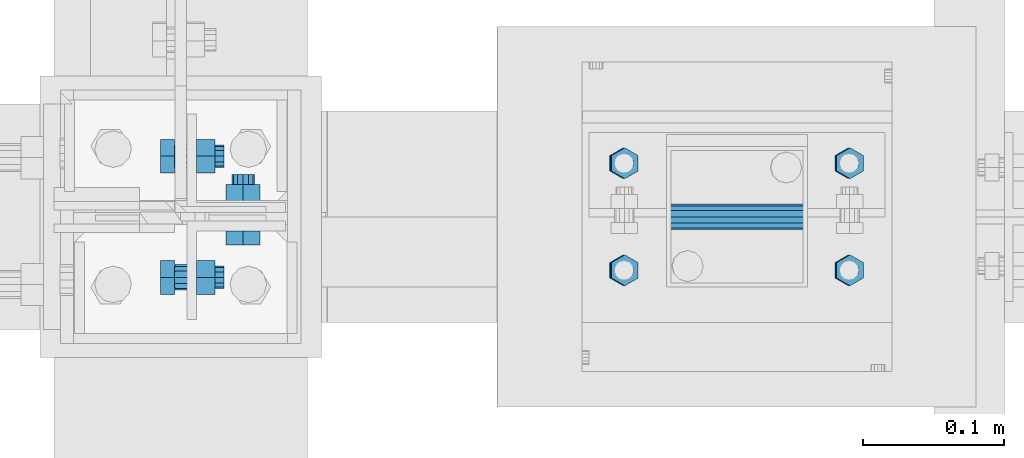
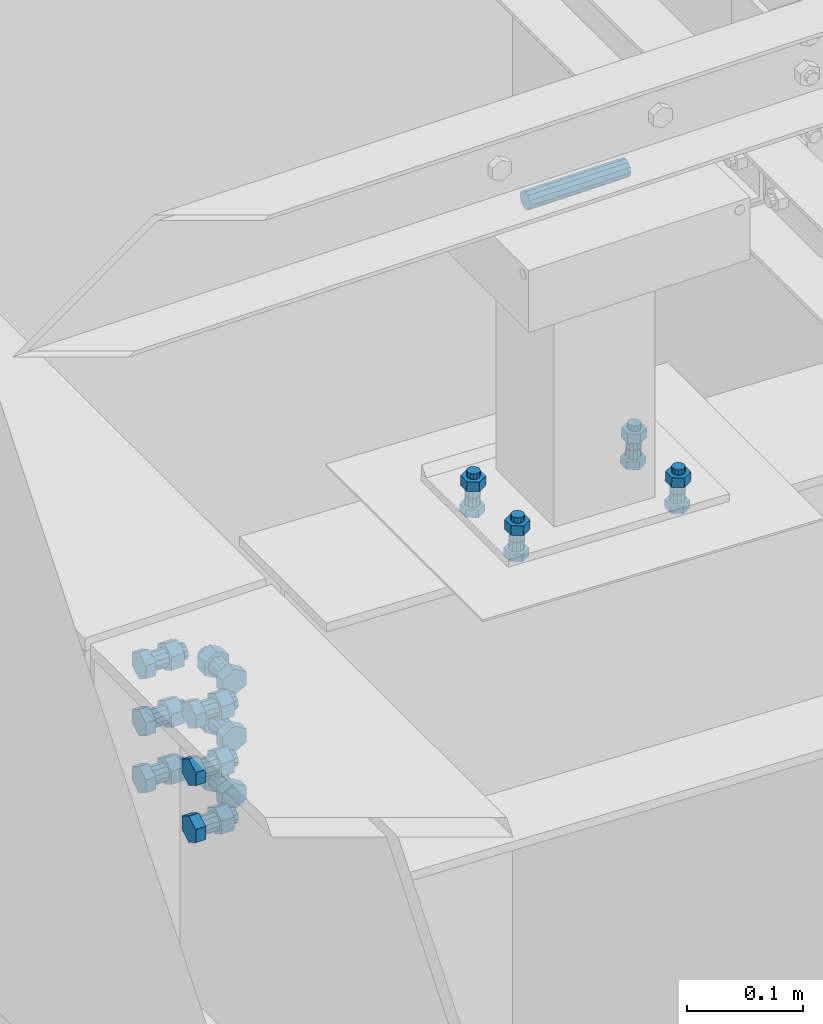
# One storey, part 182 of 3134: 5 mechanical fasteners, 3 elements without a shape of their own.
"""IFC2X3 building model written with IfcOpenShell, lengths in millimetres."""

from ifc_helpers import new_model, si_unit, frame, origin_with_axes, place, context, subcontext, project, spatial, faceted_brep, source, transform, mapped, material, type_object, element, aggregate, save


model = new_model("IFC2X3")

# Units and contexts
model_context = context("Model", 3, precision=1e-05, world=origin_with_axes())
body_context = subcontext(model_context, "Body", "Model", "MODEL_VIEW")
ifc_project = project(units=[si_unit("LENGTHUNIT", "METRE", prefix="MILLI"), si_unit("AREAUNIT", "SQUARE_METRE"), si_unit("VOLUMEUNIT", "CUBIC_METRE"), si_unit("MASSUNIT", "GRAM", prefix="KILO"), si_unit("TIMEUNIT", "SECOND"), si_unit("PLANEANGLEUNIT", "RADIAN"), si_unit("SOLIDANGLEUNIT", "STERADIAN"), si_unit("THERMODYNAMICTEMPERATUREUNIT", "DEGREE_CELSIUS"), si_unit("LUMINOUSINTENSITYUNIT", "LUMEN")], contexts=[model_context])

# Site, building, storey
site_placement = place(None, origin_with_axes())
site = spatial("IfcSite", under=ifc_project, at=site_placement, CompositionType="ELEMENT")
building_placement = place(site_placement, origin_with_axes())
building = spatial("IfcBuilding", under=site, at=building_placement, Name="Undefined", CompositionType="ELEMENT")
storey_placement = place(building_placement, origin_with_axes())
storey = spatial("IfcBuildingStorey", under=building, at=storey_placement, Name="Undefined", CompositionType="ELEMENT", Elevation=0.0)

# Assembly, mechanical fastener
assembly_1_placement = place(storey_placement, origin_with_axes())
assembly_1 = element("IfcElementAssembly", 1, at=assembly_1_placement, inside=storey, AssemblyPlace="NOTDEFINED", PredefinedType="RIGID_FRAME")
ifc_material = material(Name="8.8")
mechanical_fastener_type = type_object("IfcMechanicalFastenerType", Name="Bolt assembly")
shared_shape_1 = source(origin_with_axes(), body_context, "Body", "Brep", [
    faceted_brep([(13.856406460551, -18.5936482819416, 0.0), (6.92820323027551, -18.5936482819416, 12.0), (-6.92820323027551, -18.5936482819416, 12.0), (-13.856406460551, -18.5936482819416, 1.69692038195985e-15), (-6.92820323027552, -18.5936482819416, -12.0), (6.9282032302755, -18.5936482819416, -12.0), (6.9282032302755, -8.59364828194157, -12.0), (-6.92820323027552, -8.59364828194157, -12.0), (-13.856406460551, -8.59364828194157, 1.69692038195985e-15), (-6.92820323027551, -8.59364828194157, 12.0), (6.92820323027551, -8.59364828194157, 12.0), (13.856406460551, -8.59364828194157, 0.0), (8.0, -8.59364828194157, 0.0), (6.92820323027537, -8.59364828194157, 4.00000000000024), (3.99999999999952, -8.59364828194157, 6.92820323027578), (-8.29068785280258e-13, -8.59364828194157, 8.0), (-4.00000000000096, -8.59364828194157, 6.92820323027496), (-6.9282032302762, -8.59364828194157, 3.99999999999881), (-8.0, -8.59364828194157, -1.65813757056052e-12), (-6.92820323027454, -8.59364828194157, -4.00000000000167), (-3.99999999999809, -8.59364828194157, -6.92820323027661), (2.47832457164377e-12, -8.59364828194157, -8.0), (4.00000000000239, -8.59364828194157, -6.92820323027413), (6.92820323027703, -8.59364828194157, -3.99999999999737), (6.92820323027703, 26.4063517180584, -3.99999999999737), (4.00000000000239, 26.4063517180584, -6.92820323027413), (2.47832457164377e-12, 26.4063517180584, -8.0), (-3.99999999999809, 26.4063517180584, -6.92820323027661), (-6.92820323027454, 26.4063517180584, -4.00000000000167), (-8.0, 26.4063517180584, -1.65813757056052e-12), (-6.9282032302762, 26.4063517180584, 3.99999999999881), (-4.00000000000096, 26.4063517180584, 6.92820323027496), (-8.29068785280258e-13, 26.4063517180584, 8.0), (3.99999999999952, 26.4063517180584, 6.92820323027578), (6.92820323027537, 26.4063517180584, 4.00000000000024), (8.0, 26.4063517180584, 0.0), (13.856406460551, 7.0, 0.0), (6.92820323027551, 7.0, 12.0), (-6.92820323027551, 7.0, 12.0), (-13.856406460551, 7.0, 1.69692038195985e-15), (-6.92820323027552, 7.0, -12.0), (6.9282032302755, 7.0, -12.0), (6.9282032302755, 20.0, -12.0), (-6.92820323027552, 20.0, -12.0), (-13.856406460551, 20.0, 1.69692038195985e-15), (-6.92820323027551, 20.0, 12.0), (6.92820323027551, 20.0, 12.0), (13.856406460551, 20.0, 0.0)], [[[0, 1, 2, 3, 4, 5]], [[6, 7, 8, 9, 10, 11]], [[0, 11, 10, 1]], [[1, 10, 9, 2]], [[2, 9, 8, 3]], [[3, 8, 7, 4]], [[4, 7, 6, 5]], [[5, 6, 11, 0]], [[12, 13, 14, 15, 16, 17, 18, 19, 20, 21, 22, 23]], [[24, 25, 26, 27, 28, 29, 30, 31, 32, 33, 34, 35]], [[12, 35, 34, 13]], [[13, 34, 33, 14]], [[14, 33, 32, 15]], [[15, 32, 31, 16]], [[16, 31, 30, 17]], [[17, 30, 29, 18]], [[18, 29, 28, 19]], [[19, 28, 27, 20]], [[20, 27, 26, 21]], [[21, 26, 25, 22]], [[22, 25, 24, 23]], [[23, 24, 35, 12]], [[36, 37, 38, 39, 40, 41]], [[42, 43, 44, 45, 46, 47]], [[36, 47, 46, 37]], [[37, 46, 45, 38]], [[38, 45, 44, 39]], [[39, 44, 43, 40]], [[40, 43, 42, 41]], [[41, 42, 47, 36]]]),
    faceted_brep([(9.0, -8.49364828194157, 0.0), (7.79422863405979, -8.49364828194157, 4.50000000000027), (4.49999999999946, -8.49364828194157, 7.79422863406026), (-9.3270238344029e-13, -8.49364828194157, 9.0), (-4.50000000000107, -8.49364828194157, 7.79422863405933), (-7.79422863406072, -8.49364828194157, 4.49999999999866), (-9.0, -8.49364828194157, -1.86540476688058e-12), (-7.79422863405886, -8.49364828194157, -4.50000000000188), (-4.49999999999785, -8.49364828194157, -7.79422863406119), (2.78811514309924e-12, -8.49364828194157, -9.0), (4.50000000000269, -8.49364828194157, -7.7942286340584), (7.79422863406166, -8.49364828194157, -4.49999999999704), (7.79422863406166, 0.10635209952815, -4.49999999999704), (4.50000000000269, 0.10635209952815, -7.7942286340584), (2.78811514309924e-12, 0.10635209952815, -9.0), (-4.49999999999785, 0.10635209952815, -7.79422863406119), (-7.79422863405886, 0.10635209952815, -4.50000000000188), (-9.0, 0.10635209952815, -1.86540476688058e-12), (-7.79422863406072, 0.10635209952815, 4.49999999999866), (-4.50000000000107, 0.10635209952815, 7.79422863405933), (-9.3270238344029e-13, 0.10635209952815, 9.0), (4.49999999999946, 0.10635209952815, 7.79422863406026), (7.79422863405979, 0.10635209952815, 4.50000000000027), (9.0, 0.10635209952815, 0.0), (9.0, -0.1, 0.0), (7.79422863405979, -0.1, 4.50000000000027), (4.49999999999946, -0.1, 7.79422863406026), (-9.3270238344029e-13, -0.1, 9.0), (-4.50000000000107, -0.1, 7.79422863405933), (-7.79422863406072, -0.1, 4.49999999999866), (-9.0, -0.1, -1.86540476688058e-12), (-7.79422863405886, -0.1, -4.50000000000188), (-4.49999999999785, -0.1, -7.79422863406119), (2.78811514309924e-12, -0.1, -9.0), (4.50000000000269, -0.1, -7.7942286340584), (7.79422863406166, -0.1, -4.49999999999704), (7.79422863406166, 7.0, -4.49999999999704), (4.50000000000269, 7.0, -7.7942286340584), (2.78811514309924e-12, 7.0, -9.0), (-4.49999999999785, 7.0, -7.79422863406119), (-7.79422863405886, 7.0, -4.50000000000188), (-9.0, 7.0, -1.86540476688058e-12), (-7.79422863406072, 7.0, 4.49999999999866), (-4.50000000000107, 7.0, 7.79422863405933), (-9.3270238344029e-13, 7.0, 9.0), (4.49999999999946, 7.0, 7.79422863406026), (7.79422863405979, 7.0, 4.50000000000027), (9.0, 7.0, 0.0)], [[[0, 1, 2, 3, 4, 5, 6, 7, 8, 9, 10, 11]], [[12, 13, 14, 15, 16, 17, 18, 19, 20, 21, 22, 23]], [[0, 23, 22, 1]], [[1, 22, 21, 2]], [[2, 21, 20, 3]], [[3, 20, 19, 4]], [[4, 19, 18, 5]], [[5, 18, 17, 6]], [[6, 17, 16, 7]], [[7, 16, 15, 8]], [[8, 15, 14, 9]], [[9, 14, 13, 10]], [[10, 13, 12, 11]], [[11, 12, 23, 0]], [[24, 25, 26, 27, 28, 29, 30, 31, 32, 33, 34, 35]], [[36, 37, 38, 39, 40, 41, 42, 43, 44, 45, 46, 47]], [[24, 47, 46, 25]], [[25, 46, 45, 26]], [[26, 45, 44, 27]], [[27, 44, 43, 28]], [[28, 43, 42, 29]], [[29, 42, 41, 30]], [[30, 41, 40, 31]], [[31, 40, 39, 32]], [[32, 39, 38, 33]], [[33, 38, 37, 34]], [[34, 37, 36, 35]], [[35, 36, 47, 24]]]),
])
mechanical_fastener_1_placement = place(assembly_1_placement, frame((4.29364809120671, 40293.04, 3841.86727512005), z_axis=(0.0, 1.0, 0.0), x_axis=(0.0, 0.0, 1.0)))
mechanical_fastener_1 = element("IfcMechanicalFastener", 2, at=mechanical_fastener_1_placement, type_object=mechanical_fastener_type, material=ifc_material, Name="Bolt assembly", NominalDiameter=16.0, NominalLength=35.0, context=body_context, shape_type="MappedRepresentation", body=[
    mapped(shared_shape_1, transform((0.0, 0.0, 0.0))),
    mapped(shared_shape_1, transform((59.9999999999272, 0.0, 5.40239852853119e-10))),
    mapped(shared_shape_1, transform((120.0, 0.0, 0.0))),
])
aggregate(assembly_1, [mechanical_fastener_1])

# Assembly, mechanical fasteners
assembly_2_placement = place(storey_placement, origin_with_axes())
assembly_2 = element("IfcElementAssembly", 3, at=assembly_2_placement, inside=storey, AssemblyPlace="NOTDEFINED", PredefinedType="RIGID_FRAME")
mechanical_fastener_2_placement = place(assembly_2_placement, frame((4.29364809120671, 40206.96, 3841.86727512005), z_axis=(0.0, 1.0, 0.0), x_axis=(0.0, 0.0, 1.0)))
mechanical_fastener_2 = element("IfcMechanicalFastener", 4, at=mechanical_fastener_2_placement, type_object=mechanical_fastener_type, material=ifc_material, Name="Bolt assembly", NominalDiameter=16.0, NominalLength=35.0, context=body_context, shape_type="MappedRepresentation", body=[
    mapped(shared_shape_1, transform((0.0, 0.0, 0.0))),
    mapped(shared_shape_1, transform((59.9999999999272, 0.0, 5.40239852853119e-10))),
    mapped(shared_shape_1, transform((120.0, 0.0, 0.0))),
])
shared_shape_2 = source(origin_with_axes(), body_context, "Body", "Brep", [
    faceted_brep([(13.856406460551, -20.0400000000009, 0.0), (6.92820323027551, -20.0400000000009, 12.0), (-6.92820323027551, -20.0400000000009, 12.0), (-13.856406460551, -20.0400000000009, 1.69692038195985e-15), (-6.92820323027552, -20.0400000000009, -12.0), (6.9282032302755, -20.0400000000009, -12.0), (6.9282032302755, -10.0400000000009, -12.0), (-6.92820323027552, -10.0400000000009, -12.0), (-13.856406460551, -10.0400000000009, 1.69692038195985e-15), (-6.92820323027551, -10.0400000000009, 12.0), (6.92820323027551, -10.0400000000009, 12.0), (13.856406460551, -10.0400000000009, 0.0), (8.0, -10.0400000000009, 0.0), (6.92820323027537, -10.0400000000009, 4.00000000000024), (3.99999999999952, -10.0400000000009, 6.92820323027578), (-8.29068785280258e-13, -10.0400000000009, 8.0), (-4.00000000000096, -10.0400000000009, 6.92820323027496), (-6.9282032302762, -10.0400000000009, 3.99999999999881), (-8.0, -10.0400000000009, -1.65813757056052e-12), (-6.92820323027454, -10.0400000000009, -4.00000000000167), (-3.99999999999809, -10.0400000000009, -6.92820323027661), (2.47832457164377e-12, -10.0400000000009, -8.0), (4.00000000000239, -10.0400000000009, -6.92820323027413), (6.92820323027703, -10.0400000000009, -3.99999999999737), (6.92820323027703, 29.9599999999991, -3.99999999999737), (4.00000000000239, 29.9599999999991, -6.92820323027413), (2.47832457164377e-12, 29.9599999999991, -8.0), (-3.99999999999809, 29.9599999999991, -6.92820323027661), (-6.92820323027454, 29.9599999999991, -4.00000000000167), (-8.0, 29.9599999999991, -1.65813757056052e-12), (-6.9282032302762, 29.9599999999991, 3.99999999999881), (-4.00000000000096, 29.9599999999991, 6.92820323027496), (-8.29068785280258e-13, 29.9599999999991, 8.0), (3.99999999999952, 29.9599999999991, 6.92820323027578), (6.92820323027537, 29.9599999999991, 4.00000000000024), (8.0, 29.9599999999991, 0.0), (13.856406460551, 10.0400000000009, 0.0), (6.92820323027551, 10.0400000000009, 12.0), (-6.92820323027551, 10.0400000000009, 12.0), (-13.856406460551, 10.0400000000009, 1.69692038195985e-15), (-6.92820323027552, 10.0400000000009, -12.0), (6.9282032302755, 10.0400000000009, -12.0), (6.9282032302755, 23.0400000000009, -12.0), (-6.92820323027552, 23.0400000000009, -12.0), (-13.856406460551, 23.0400000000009, 1.69692038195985e-15), (-6.92820323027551, 23.0400000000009, 12.0), (6.92820323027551, 23.0400000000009, 12.0), (13.856406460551, 23.0400000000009, 0.0)], [[[0, 1, 2, 3, 4, 5]], [[6, 7, 8, 9, 10, 11]], [[0, 11, 10, 1]], [[1, 10, 9, 2]], [[2, 9, 8, 3]], [[3, 8, 7, 4]], [[4, 7, 6, 5]], [[5, 6, 11, 0]], [[12, 13, 14, 15, 16, 17, 18, 19, 20, 21, 22, 23]], [[24, 25, 26, 27, 28, 29, 30, 31, 32, 33, 34, 35]], [[12, 35, 34, 13]], [[13, 34, 33, 14]], [[14, 33, 32, 15]], [[15, 32, 31, 16]], [[16, 31, 30, 17]], [[17, 30, 29, 18]], [[18, 29, 28, 19]], [[19, 28, 27, 20]], [[20, 27, 26, 21]], [[21, 26, 25, 22]], [[22, 25, 24, 23]], [[23, 24, 35, 12]], [[36, 37, 38, 39, 40, 41]], [[42, 43, 44, 45, 46, 47]], [[36, 47, 46, 37]], [[37, 46, 45, 38]], [[38, 45, 44, 39]], [[39, 44, 43, 40]], [[40, 43, 42, 41]], [[41, 42, 47, 36]]]),
    faceted_brep([(9.0, -3.04999995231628, 0.0), (7.79422863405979, -3.04999995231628, 4.50000000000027), (4.49999999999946, -3.04999995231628, 7.79422863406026), (-9.3270238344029e-13, -3.04999995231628, 9.0), (-4.50000000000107, -3.04999995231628, 7.79422863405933), (-7.79422863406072, -3.04999995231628, 4.49999999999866), (-9.0, -3.04999995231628, -1.86540476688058e-12), (-7.79422863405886, -3.04999995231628, -4.50000000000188), (-4.49999999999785, -3.04999995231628, -7.79422863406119), (2.78811514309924e-12, -3.04999995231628, -9.0), (4.50000000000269, -3.04999995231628, -7.7942286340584), (7.79422863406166, -3.04999995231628, -4.49999999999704), (7.79422863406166, 3.04999995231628, -4.49999999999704), (4.50000000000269, 3.04999995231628, -7.7942286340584), (2.78811514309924e-12, 3.04999995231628, -9.0), (-4.49999999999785, 3.04999995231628, -7.79422863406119), (-7.79422863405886, 3.04999995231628, -4.50000000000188), (-9.0, 3.04999995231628, -1.86540476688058e-12), (-7.79422863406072, 3.04999995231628, 4.49999999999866), (-4.50000000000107, 3.04999995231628, 7.79422863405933), (-9.3270238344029e-13, 3.04999995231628, 9.0), (4.49999999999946, 3.04999995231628, 7.79422863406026), (7.79422863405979, 3.04999995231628, 4.50000000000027), (9.0, 3.04999995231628, 0.0), (9.0, -9.94000000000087, 0.0), (7.79422863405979, -9.94000000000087, 4.50000000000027), (4.49999999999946, -9.94000000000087, 7.79422863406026), (-9.3270238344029e-13, -9.94000000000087, 9.0), (-4.50000000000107, -9.94000000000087, 7.79422863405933), (-7.79422863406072, -9.94000000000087, 4.49999999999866), (-9.0, -9.94000000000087, -1.86540476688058e-12), (-7.79422863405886, -9.94000000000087, -4.50000000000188), (-4.49999999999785, -9.94000000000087, -7.79422863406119), (2.78811514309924e-12, -9.94000000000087, -9.0), (4.50000000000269, -9.94000000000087, -7.7942286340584), (7.79422863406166, -9.94000000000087, -4.49999999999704), (7.79422863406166, -2.94000000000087, -4.49999999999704), (4.50000000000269, -2.94000000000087, -7.7942286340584), (2.78811514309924e-12, -2.94000000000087, -9.0), (-4.49999999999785, -2.94000000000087, -7.79422863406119), (-7.79422863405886, -2.94000000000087, -4.50000000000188), (-9.0, -2.94000000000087, -1.86540476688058e-12), (-7.79422863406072, -2.94000000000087, 4.49999999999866), (-4.50000000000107, -2.94000000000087, 7.79422863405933), (-9.3270238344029e-13, -2.94000000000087, 9.0), (4.49999999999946, -2.94000000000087, 7.79422863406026), (7.79422863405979, -2.94000000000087, 4.50000000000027), (9.0, -2.94000000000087, 0.0), (9.0, 2.94000000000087, 0.0), (7.79422863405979, 2.94000000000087, 4.50000000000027), (4.49999999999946, 2.94000000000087, 7.79422863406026), (-9.3270238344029e-13, 2.94000000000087, 9.0), (-4.50000000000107, 2.94000000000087, 7.79422863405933), (-7.79422863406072, 2.94000000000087, 4.49999999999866), (-9.0, 2.94000000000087, -1.86540476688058e-12), (-7.79422863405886, 2.94000000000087, -4.50000000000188), (-4.49999999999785, 2.94000000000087, -7.79422863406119), (2.78811514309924e-12, 2.94000000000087, -9.0), (4.50000000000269, 2.94000000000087, -7.7942286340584), (7.79422863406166, 2.94000000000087, -4.49999999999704), (7.79422863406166, 10.0400000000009, -4.49999999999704), (4.50000000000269, 10.0400000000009, -7.7942286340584), (2.78811514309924e-12, 10.0400000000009, -9.0), (-4.49999999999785, 10.0400000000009, -7.79422863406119), (-7.79422863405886, 10.0400000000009, -4.50000000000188), (-9.0, 10.0400000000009, -1.86540476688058e-12), (-7.79422863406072, 10.0400000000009, 4.49999999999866), (-4.50000000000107, 10.0400000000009, 7.79422863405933), (-9.3270238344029e-13, 10.0400000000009, 9.0), (4.49999999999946, 10.0400000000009, 7.79422863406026), (7.79422863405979, 10.0400000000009, 4.50000000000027), (9.0, 10.0400000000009, 0.0)], [[[0, 1, 2, 3, 4, 5, 6, 7, 8, 9, 10, 11]], [[12, 13, 14, 15, 16, 17, 18, 19, 20, 21, 22, 23]], [[0, 23, 22, 1]], [[1, 22, 21, 2]], [[2, 21, 20, 3]], [[3, 20, 19, 4]], [[4, 19, 18, 5]], [[5, 18, 17, 6]], [[6, 17, 16, 7]], [[7, 16, 15, 8]], [[8, 15, 14, 9]], [[9, 14, 13, 10]], [[10, 13, 12, 11]], [[11, 12, 23, 0]], [[24, 25, 26, 27, 28, 29, 30, 31, 32, 33, 34, 35]], [[36, 37, 38, 39, 40, 41, 42, 43, 44, 45, 46, 47]], [[24, 47, 46, 25]], [[25, 46, 45, 26]], [[26, 45, 44, 27]], [[27, 44, 43, 28]], [[28, 43, 42, 29]], [[29, 42, 41, 30]], [[30, 41, 40, 31]], [[31, 40, 39, 32]], [[32, 39, 38, 33]], [[33, 38, 37, 34]], [[34, 37, 36, 35]], [[35, 36, 47, 24]], [[48, 49, 50, 51, 52, 53, 54, 55, 56, 57, 58, 59]], [[60, 61, 62, 63, 64, 65, 66, 67, 68, 69, 70, 71]], [[48, 71, 70, 49]], [[49, 70, 69, 50]], [[50, 69, 68, 51]], [[51, 68, 67, 52]], [[52, 67, 66, 53]], [[53, 66, 65, 54]], [[54, 65, 64, 55]], [[55, 64, 63, 56]], [[56, 63, 62, 57]], [[57, 62, 61, 58]], [[58, 61, 60, 59]], [[59, 60, 71, 48]]]),
])
mechanical_fastener_3_placement = place(assembly_2_placement, frame((44.2936480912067, 40250.0, 3841.86727512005), z_axis=(-1.0, 0.0, 0.0), x_axis=(0.0, 0.0, 1.0)))
mechanical_fastener_3 = element("IfcMechanicalFastener", 5, at=mechanical_fastener_3_placement, type_object=mechanical_fastener_type, material=ifc_material, Name="Bolt assembly", NominalDiameter=16.0, NominalLength=40.0, context=body_context, shape_type="MappedRepresentation", body=[
    mapped(shared_shape_2, transform((0.0, 0.0, 0.0))),
    mapped(shared_shape_2, transform((59.9999999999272, 0.0, 5.40239852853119e-10))),
    mapped(shared_shape_2, transform((120.0, 0.0, 0.0))),
])
aggregate(assembly_2, [mechanical_fastener_2, mechanical_fastener_3])

assembly_3_placement = place(storey_placement, origin_with_axes())
assembly_3 = element("IfcElementAssembly", 6, at=assembly_3_placement, inside=storey, AssemblyPlace="NOTDEFINED", PredefinedType="RIGID_FRAME")
shared_shape_3 = source(origin_with_axes(), body_context, "Body", "Brep", [
    faceted_brep([(10.9696551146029, -4.19432770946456, 0.0), (5.48482755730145, -4.19432770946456, 9.5), (-5.48482755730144, -4.19432770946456, 9.5), (-10.9696551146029, -4.19432770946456, 1.34339530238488e-15), (-5.48482755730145, -4.19432770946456, -9.5), (5.48482755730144, -4.19432770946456, -9.50000000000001), (5.48482755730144, 3.80567229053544, -9.50000000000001), (-5.48482755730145, 3.80567229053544, -9.5), (-10.9696551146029, 3.80567229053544, 1.34339530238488e-15), (-5.48482755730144, 3.80567229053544, 9.5), (5.48482755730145, 3.80567229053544, 9.5), (10.9696551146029, 3.80567229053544, 0.0), (6.0, 3.80567229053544, 0.0), (5.19615242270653, 3.80567229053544, 3.00000000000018), (2.99999999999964, 3.80567229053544, 5.19615242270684), (-6.21801588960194e-13, 3.80567229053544, 6.0), (-3.00000000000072, 3.80567229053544, 5.19615242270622), (-5.19615242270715, 3.80567229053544, 2.9999999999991), (-6.0, 3.80567229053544, -1.24360317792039e-12), (-5.19615242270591, 3.80567229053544, -3.00000000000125), (-2.99999999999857, 3.80567229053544, -5.19615242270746), (1.85874342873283e-12, 3.80567229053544, -6.0), (3.00000000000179, 3.80567229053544, -5.1961524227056), (5.19615242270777, 3.80567229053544, -2.99999999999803), (5.19615242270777, 38.8056722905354, -2.99999999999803), (3.00000000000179, 38.8056722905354, -5.1961524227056), (1.85874342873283e-12, 38.8056722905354, -6.0), (-2.99999999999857, 38.8056722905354, -5.19615242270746), (-5.19615242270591, 38.8056722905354, -3.00000000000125), (-6.0, 38.8056722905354, -1.24360317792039e-12), (-5.19615242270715, 38.8056722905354, 2.9999999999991), (-3.00000000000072, 38.8056722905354, 5.19615242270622), (-6.21801588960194e-13, 38.8056722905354, 6.0), (2.99999999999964, 38.8056722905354, 5.19615242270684), (5.19615242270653, 38.8056722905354, 3.00000000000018), (6.0, 38.8056722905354, 0.0), (10.9696551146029, 23.0139082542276, 0.0), (5.48482755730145, 23.0139082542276, 9.5), (-5.48482755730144, 23.0139082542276, 9.5), (-10.9696551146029, 23.0139082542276, 1.34339530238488e-15), (-5.48482755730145, 23.0139082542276, -9.5), (5.48482755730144, 23.0139082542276, -9.50000000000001), (5.48482755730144, 33.0139082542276, -9.50000000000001), (-5.48482755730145, 33.0139082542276, -9.5), (-10.9696551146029, 33.0139082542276, 1.34339530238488e-15), (-5.48482755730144, 33.0139082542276, 9.5), (5.48482755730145, 33.0139082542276, 9.5), (10.9696551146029, 33.0139082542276, 0.0)], [[[0, 1, 2, 3, 4, 5]], [[6, 7, 8, 9, 10, 11]], [[0, 11, 10, 1]], [[1, 10, 9, 2]], [[2, 9, 8, 3]], [[3, 8, 7, 4]], [[4, 7, 6, 5]], [[5, 6, 11, 0]], [[12, 13, 14, 15, 16, 17, 18, 19, 20, 21, 22, 23]], [[24, 25, 26, 27, 28, 29, 30, 31, 32, 33, 34, 35]], [[12, 35, 34, 13]], [[13, 34, 33, 14]], [[14, 33, 32, 15]], [[15, 32, 31, 16]], [[16, 31, 30, 17]], [[17, 30, 29, 18]], [[18, 29, 28, 19]], [[19, 28, 27, 20]], [[20, 27, 26, 21]], [[21, 26, 25, 22]], [[22, 25, 24, 23]], [[23, 24, 35, 12]], [[36, 37, 38, 39, 40, 41]], [[42, 43, 44, 45, 46, 47]], [[36, 47, 46, 37]], [[37, 46, 45, 38]], [[38, 45, 44, 39]], [[39, 44, 43, 40]], [[40, 43, 42, 41]], [[41, 42, 47, 36]]]),
    faceted_brep([(7.0, 3.90567229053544, 0.0), (6.06217782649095, 3.90567229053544, 3.50000000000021), (3.49999999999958, 3.90567229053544, 6.06217782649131), (-7.25435187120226e-13, 3.90567229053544, 7.0), (-3.50000000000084, 3.90567229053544, 6.06217782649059), (-6.06217782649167, 3.90567229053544, 3.49999999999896), (-7.0, 3.90567229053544, -1.45087037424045e-12), (-6.06217782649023, 3.90567229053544, -3.50000000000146), (-3.49999999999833, 3.90567229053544, -6.06217782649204), (2.1685340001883e-12, 3.90567229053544, -7.0), (3.50000000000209, 3.90567229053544, -6.06217782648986), (6.0621778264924, 3.90567229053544, -3.4999999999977), (6.0621778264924, 13.1056721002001, -3.4999999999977), (3.50000000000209, 13.1056721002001, -6.06217782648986), (2.1685340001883e-12, 13.1056721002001, -7.0), (-3.49999999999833, 13.1056721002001, -6.06217782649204), (-6.06217782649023, 13.1056721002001, -3.50000000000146), (-7.0, 13.1056721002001, -1.45087037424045e-12), (-6.06217782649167, 13.1056721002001, 3.49999999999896), (-3.50000000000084, 13.1056721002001, 6.06217782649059), (-7.25435187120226e-13, 13.1056721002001, 7.0), (3.49999999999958, 13.1056721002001, 6.06217782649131), (6.06217782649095, 13.1056721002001, 3.50000000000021), (7.0, 13.1056721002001, 0.0), (7.0, 14.9139082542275, 0.0), (6.06217782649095, 14.9139082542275, 3.50000000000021), (3.49999999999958, 14.9139082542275, 6.06217782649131), (-7.25435187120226e-13, 14.9139082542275, 7.0), (-3.50000000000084, 14.9139082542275, 6.06217782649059), (-6.06217782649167, 14.9139082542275, 3.49999999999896), (-7.0, 14.9139082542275, -1.45087037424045e-12), (-6.06217782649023, 14.9139082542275, -3.50000000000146), (-3.49999999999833, 14.9139082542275, -6.06217782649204), (2.1685340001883e-12, 14.9139082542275, -7.0), (3.50000000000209, 14.9139082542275, -6.06217782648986), (6.0621778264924, 14.9139082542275, -3.4999999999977), (6.0621778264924, 23.0139082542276, -3.4999999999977), (3.50000000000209, 23.0139082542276, -6.06217782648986), (2.1685340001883e-12, 23.0139082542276, -7.0), (-3.49999999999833, 23.0139082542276, -6.06217782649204), (-6.06217782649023, 23.0139082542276, -3.50000000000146), (-7.0, 23.0139082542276, -1.45087037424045e-12), (-6.06217782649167, 23.0139082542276, 3.49999999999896), (-3.50000000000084, 23.0139082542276, 6.06217782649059), (-7.25435187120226e-13, 23.0139082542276, 7.0), (3.49999999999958, 23.0139082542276, 6.06217782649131), (6.06217782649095, 23.0139082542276, 3.50000000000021), (7.0, 23.0139082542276, 0.0)], [[[0, 1, 2, 3, 4, 5, 6, 7, 8, 9, 10, 11]], [[12, 13, 14, 15, 16, 17, 18, 19, 20, 21, 22, 23]], [[0, 23, 22, 1]], [[1, 22, 21, 2]], [[2, 21, 20, 3]], [[3, 20, 19, 4]], [[4, 19, 18, 5]], [[5, 18, 17, 6]], [[6, 17, 16, 7]], [[7, 16, 15, 8]], [[8, 15, 14, 9]], [[9, 14, 13, 10]], [[10, 13, 12, 11]], [[11, 12, 23, 0]], [[24, 25, 26, 27, 28, 29, 30, 31, 32, 33, 34, 35]], [[36, 37, 38, 39, 40, 41, 42, 43, 44, 45, 46, 47]], [[24, 47, 46, 25]], [[25, 46, 45, 26]], [[26, 45, 44, 27]], [[27, 44, 43, 28]], [[28, 43, 42, 29]], [[29, 42, 41, 30]], [[30, 41, 40, 31]], [[31, 40, 39, 32]], [[32, 39, 38, 33]], [[33, 38, 37, 34]], [[34, 37, 36, 35]], [[35, 36, 47, 24]]]),
])
mechanical_fastener_4_placement = place(assembly_3_placement, frame((394.193176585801, 40287.9999999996, 4013.19000668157), z_axis=(-0.999387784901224, 0.0, 0.0349865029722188), x_axis=(0.0, -1.0, 0.0)))
mechanical_fastener_4 = element("IfcMechanicalFastener", 7, at=mechanical_fastener_4_placement, type_object=mechanical_fastener_type, material=ifc_material, Name="Bolt assembly", NominalDiameter=12.0, NominalLength=35.0, context=body_context, shape_type="MappedRepresentation", body=[
    mapped(shared_shape_3, transform((0.0, -5.32963895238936e-10, -79.9999999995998))),
    mapped(shared_shape_3, transform((76.0, -5.32963895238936e-10, -79.9999999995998))),
    mapped(shared_shape_3, transform((0.0, 5.3114490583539e-10, 79.9999999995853))),
    mapped(shared_shape_3, transform((76.0, 5.3114490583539e-10, 79.9999999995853))),
])
shared_shape_4 = source(origin_with_axes(), body_context, "Body", "Brep", [
    faceted_brep([(9.0, -50.0, 0.0), (7.79422863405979, -50.0, 4.50000000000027), (4.49999999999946, -50.0, 7.79422863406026), (-9.3270238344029e-13, -50.0, 9.0), (-4.50000000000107, -50.0, 7.79422863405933), (-7.79422863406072, -50.0, 4.49999999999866), (-9.0, -50.0, -1.86540476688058e-12), (-7.79422863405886, -50.0, -4.50000000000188), (-4.49999999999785, -50.0, -7.79422863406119), (2.78811514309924e-12, -50.0, -9.0), (4.50000000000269, -50.0, -7.7942286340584), (7.79422863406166, -50.0, -4.49999999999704), (7.79422863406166, 50.1, -4.49999999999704), (4.50000000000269, 50.1, -7.7942286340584), (2.78811514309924e-12, 50.1, -9.0), (-4.49999999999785, 50.1, -7.79422863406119), (-7.79422863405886, 50.1, -4.50000000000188), (-9.0, 50.1, -1.86540476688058e-12), (-7.79422863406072, 50.1, 4.49999999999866), (-4.50000000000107, 50.1, 7.79422863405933), (-9.3270238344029e-13, 50.1, 9.0), (4.49999999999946, 50.1, 7.79422863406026), (7.79422863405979, 50.1, 4.50000000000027), (9.0, 50.1, 0.0)], [[[0, 1, 2, 3, 4, 5, 6, 7, 8, 9, 10, 11]], [[12, 13, 14, 15, 16, 17, 18, 19, 20, 21, 22, 23]], [[0, 23, 22, 1]], [[1, 22, 21, 2]], [[2, 21, 20, 3]], [[3, 20, 19, 4]], [[4, 19, 18, 5]], [[5, 18, 17, 6]], [[6, 17, 16, 7]], [[7, 16, 15, 8]], [[8, 15, 14, 9]], [[9, 14, 13, 10]], [[10, 13, 12, 11]], [[11, 12, 23, 0]]]),
])
mechanical_fastener_5_placement = place(assembly_3_placement, frame((395.0, 40250.0, 4351.0), z_axis=(0.0, 1.0, 0.0), x_axis=(0.0, 0.0, 1.0)))
mechanical_fastener_5 = element("IfcMechanicalFastener", 8, at=mechanical_fastener_5_placement, type_object=mechanical_fastener_type, material=ifc_material, Name="Bolt assembly", NominalDiameter=16.0, NominalLength=100.0, context=body_context, shape_type="MappedRepresentation", body=[
    mapped(shared_shape_4, transform((0.0, 0.0, 0.0))),
])
aggregate(assembly_3, [mechanical_fastener_4, mechanical_fastener_5])

save(model, "model.ifc")
